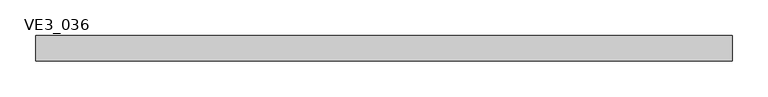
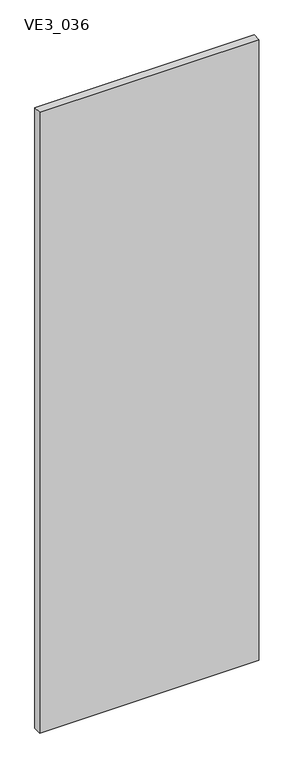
"""IFC4 building model written with IfcOpenShell, lengths in millimetres: plate geometry, TRP_CP_ARC_PF_RE_SE : VE3_036."""

from ifc_helpers import new_model, si_unit, frame, origin, place, context, project, spatial, polyline, outline, extrude, source, transform, mapped, element, save


def ve3_036_c4dd61af(model_context):
    return source(origin(), model_context, "Body", "SweptSolid", [
        extrude(outline(polyline([(490.1015023, 18.0), (490.1015023, -18.0), (-490.1015023, -18.0), (-490.1015023, 18.0), (490.1015023, 18.0)])), frame((0.0, 0.0, -3.1739529), z_axis=(0.0, 0.0, 1.0), x_axis=(1.0, 0.0, 0.0)), (0.0, 0.0, 1.0), 2933.1739529),
    ])


if __name__ == "__main__":
    model = new_model("IFC4")
    model_context = context("Model", 3, world=origin())
    ifc_project = project(units=[si_unit("LENGTHUNIT", "METRE", prefix="MILLI")], contexts=[model_context])
    site = spatial("IfcSite", under=ifc_project)
    building = spatial("IfcBuilding", under=site)
    placement = place(None, origin())
    ve3_036_shape = ve3_036_c4dd61af(model_context)
    element("IfcPlate", 1, ObjectType="TRP_CP_ARC_PF_RE_SE : VE3_036", at=placement, inside=building, context=model_context, shape_type="MappedRepresentation", body=[
        mapped(ve3_036_shape, transform((0.0, 0.0, 0.0), x_axis=(1.0, 0.0, 0.0), y_axis=(0.0, 1.0, 0.0), z_axis=(0.0, 0.0, 1.0))),
    ])
    save(model, "model.ifc")
